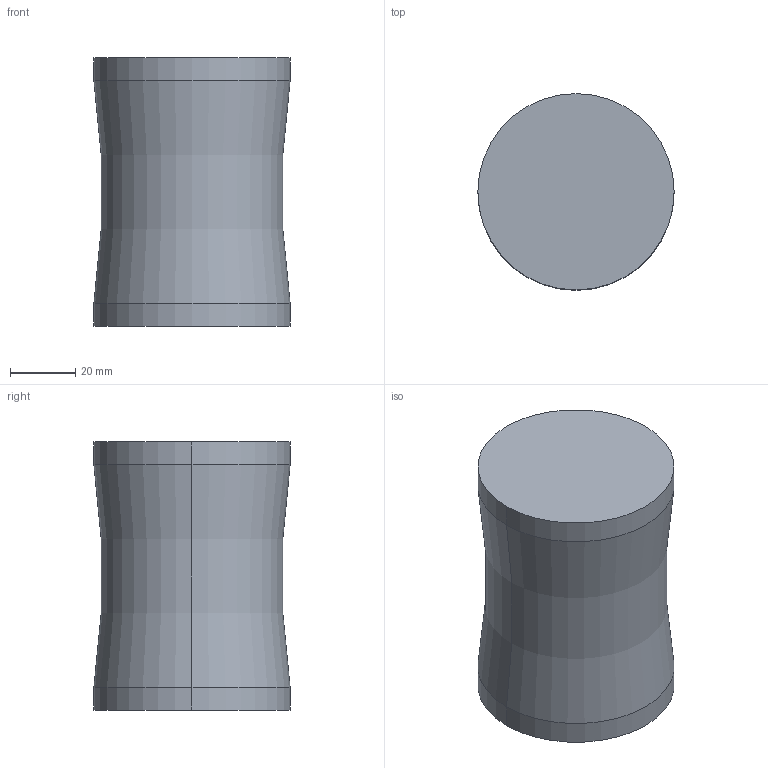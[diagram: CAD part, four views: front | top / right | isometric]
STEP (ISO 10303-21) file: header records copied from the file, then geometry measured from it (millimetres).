
FILE_DESCRIPTION(/* description */ (''),/* implementation_level */ '2;1');
FILE_NAME(/* name */ '3d_ex6080_06511_r00.stp',/* time_stamp */ '2011-01-10T14:15:38+09:00',/* author */ ('MISUMI'),/* organization */ (''),/* preprocessor_version */ 'ST-DEVELOPER v11',/* originating_system */ 'UGS - NX 5.0',/* authorisation */ '');
FILE_SCHEMA (('CONFIG_CONTROL_DESIGN'));
Length unit declared in the file: millimetre
Products named in the file (1): 3d_ex6080_06511_r00
Bounding box: 60 x 60 x 82 mm (x, y, z)
Volume: 211176.8 mm3; surface area: 20443.3 mm2
Topology: 1 solids, 1 shells, 8 faces, 14 edges, 8 vertices
Faces by surface type: cylinder 4, plane 2, torus 2
Entity records: 282 total; most frequent: DIRECTION 42, CARTESIAN_POINT 31, ORIENTED_EDGE 28, AXIS2_PLACEMENT_3D 19, EDGE_CURVE 14, CIRCLE 10, ADVANCED_FACE 8, FACE_OUTER_BOUND 8
